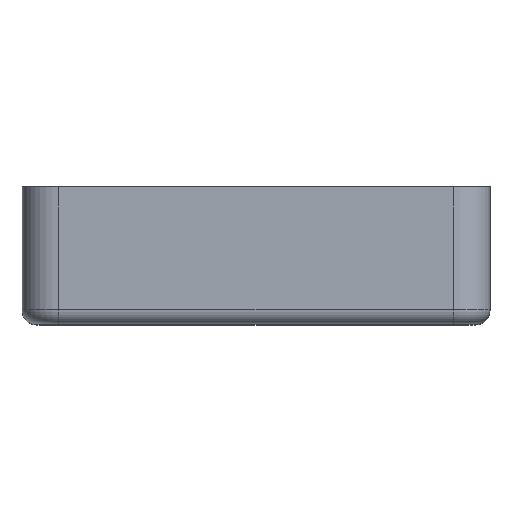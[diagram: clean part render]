
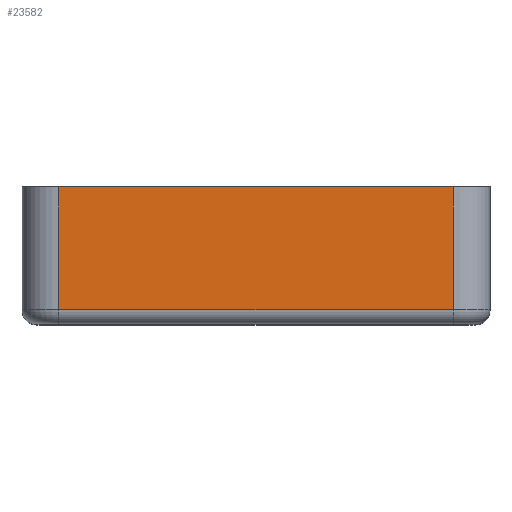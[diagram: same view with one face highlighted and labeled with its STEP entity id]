
A CAD part, top view. The second image highlights one B-rep face of the part: STEP entity #23582.
In plain terms, the highlighted planar face has unit normal (0, 0, 1).
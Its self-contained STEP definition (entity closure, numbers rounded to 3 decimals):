
#40 = ORIENTED_EDGE ( 'NONE', *, *, #13798, .T. ) ;
#1038 = LINE ( 'NONE', #9056, #1804 ) ;
#1560 = ORIENTED_EDGE ( 'NONE', *, *, #10337, .T. ) ;
#1804 = VECTOR ( 'NONE', #7078, 1000. ) ;
#1955 = ORIENTED_EDGE ( 'NONE', *, *, #12724, .T. ) ;
#3006 = VECTOR ( 'NONE', #3661, 1000. ) ;
#3057 = CARTESIAN_POINT ( 'NONE',  ( 0., -4.5, 0. ) ) ;
#3661 = DIRECTION ( 'NONE',  ( -1., 0., 0. ) ) ;
#4657 = CARTESIAN_POINT ( 'NONE',  ( 29.5, 4.6, 0. ) ) ;
#4771 = DIRECTION ( 'NONE',  ( 0., 0., -1. ) ) ;
#5351 = VERTEX_POINT ( 'NONE', #25173 ) ;
#5625 = AXIS2_PLACEMENT_3D ( 'NONE', #12529, #4771, #18566 ) ;
#7078 = DIRECTION ( 'NONE',  ( 0., -1., 0. ) ) ;
#7378 = VERTEX_POINT ( 'NONE', #10595 ) ;
#7404 = DIRECTION ( 'NONE',  ( 1., 0., 0. ) ) ;
#7531 = LINE ( 'NONE', #3057, #23641 ) ;
#9056 = CARTESIAN_POINT ( 'NONE',  ( 2.5, 4.6, 0. ) ) ;
#10337 = EDGE_CURVE ( 'NONE', #5351, #7378, #21673, .T. ) ;
#10595 = CARTESIAN_POINT ( 'NONE',  ( 2.5, 3.9, 0. ) ) ;
#11583 = VERTEX_POINT ( 'NONE', #12606 ) ;
#12529 = CARTESIAN_POINT ( 'NONE',  ( 0., 4.6, 0. ) ) ;
#12606 = CARTESIAN_POINT ( 'NONE',  ( 2.5, -4.5, 0. ) ) ;
#12724 = EDGE_CURVE ( 'NONE', #11583, #25559, #7531, .T. ) ;
#13798 = EDGE_CURVE ( 'NONE', #7378, #11583, #1038, .T. ) ;
#15254 = ORIENTED_EDGE ( 'NONE', *, *, #17171, .T. ) ;
#15606 = CARTESIAN_POINT ( 'NONE',  ( 32., 3.9, 0. ) ) ;
#17171 = EDGE_CURVE ( 'NONE', #25559, #5351, #20692, .T. ) ;
#18566 = DIRECTION ( 'NONE',  ( -1., 0., 0. ) ) ;
#20305 = VECTOR ( 'NONE', #22284, 1000. ) ;
#20424 = PLANE ( 'NONE',  #5625 ) ;
#20550 = FACE_OUTER_BOUND ( 'NONE', #21046, .T. ) ;
#20692 = LINE ( 'NONE', #4657, #20305 ) ;
#21046 = EDGE_LOOP ( 'NONE', ( #40, #1955, #15254, #1560 ) ) ;
#21673 = LINE ( 'NONE', #15606, #3006 ) ;
#22284 = DIRECTION ( 'NONE',  ( 0., 1., 0. ) ) ;
#23139 = CARTESIAN_POINT ( 'NONE',  ( 29.5, -4.5, 0. ) ) ;
#23582 = ADVANCED_FACE ( 'NONE', ( #20550 ), #20424, .F. ) ;
#23641 = VECTOR ( 'NONE', #7404, 1000. ) ;
#25173 = CARTESIAN_POINT ( 'NONE',  ( 29.5, 3.9, 0. ) ) ;
#25559 = VERTEX_POINT ( 'NONE', #23139 ) ;
